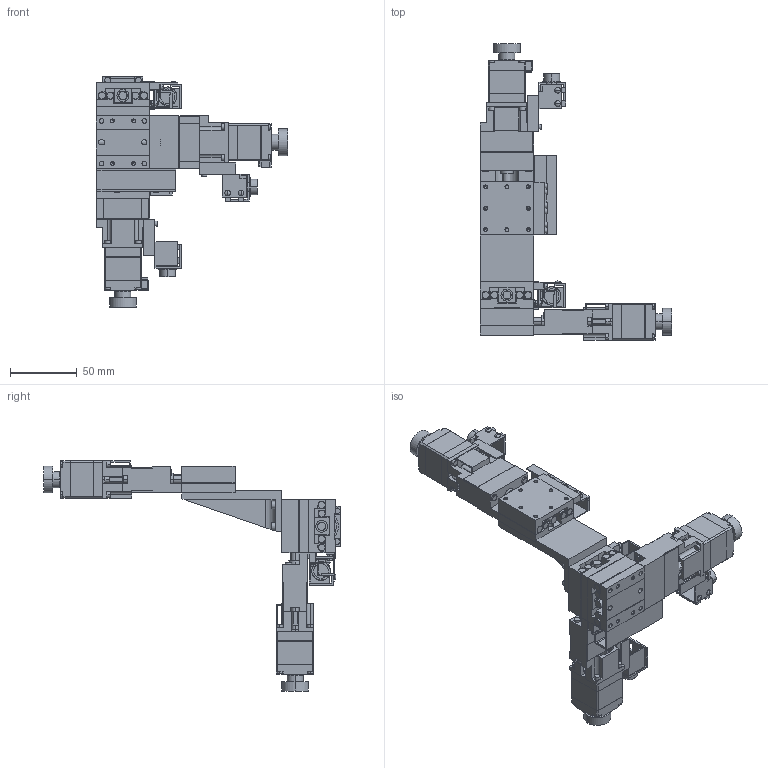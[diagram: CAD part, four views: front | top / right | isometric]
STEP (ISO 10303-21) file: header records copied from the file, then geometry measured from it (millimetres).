
FILE_DESCRIPTION(('STEP AP203'),'1');
FILE_NAME('C:/3D-Trans/3D_PMZG413M-R□-C4+240129.step','2024-02-27T00:59:23',(' '),(' '),'Spatial InterOp 3D',' ',' ');
FILE_SCHEMA(('CONFIG_CONTROL_DESIGN'));
Length unit declared in the file: millimetre
Products named in the file (19): 1; 2; 3; 4; 5; 6; 7; 8; 9; 10; 11; 12; 13; 14; 15; 16; 17; 18; 19
Bounding box: 143.5 x 222.5 x 172.5 mm (x, y, z)
Volume: 289466 mm3; surface area: 149404.5 mm2
Topology: 19 solids, 19 shells, 2260 faces, 5776 edges, 3676 vertices
Faces by surface type: plane 1397, cylinder 699, cone 152, sphere 12
Entity records: 69126 total; most frequent: CARTESIAN_POINT 12223, DIRECTION 11956, ORIENTED_EDGE 11408, EDGE_CURVE 5704, AXIS2_PLACEMENT_3D 3997, LINE 3962, VECTOR 3962, VERTEX_POINT 3676
